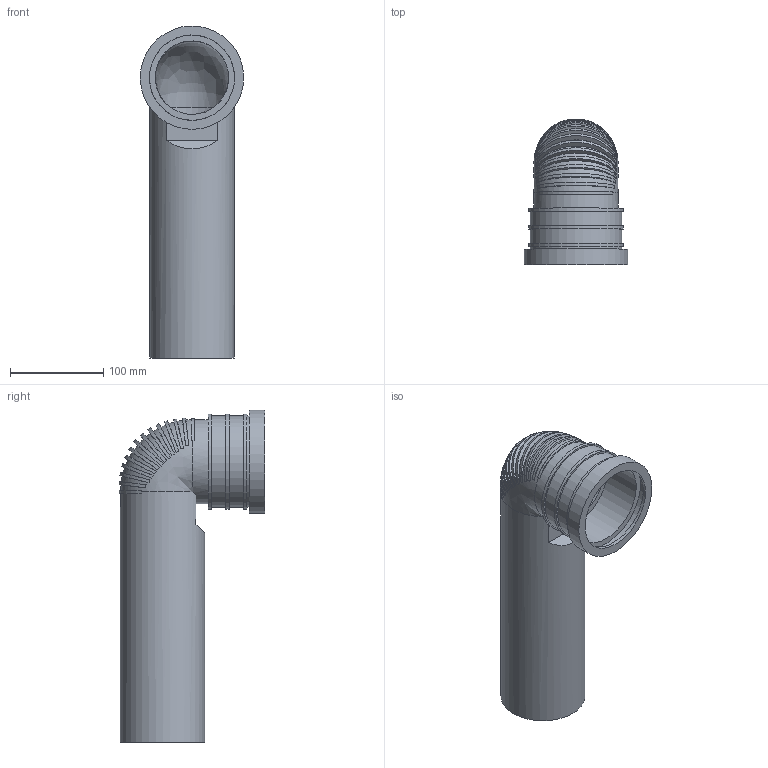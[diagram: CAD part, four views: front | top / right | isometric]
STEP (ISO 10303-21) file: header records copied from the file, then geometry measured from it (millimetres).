
FILE_DESCRIPTION(/* description */ (''),/* implementation_level */ '2;1');
FILE_NAME(/* name */ 'C:\Geberit-Teile\Export 2019\308.883.14.1\stp\308883.stp',/* time_stamp */ '2019-06-06T10:43:24+02:00',/* author */ ('JANAN'),/* organization */ (''),/* preprocessor_version */ 'ST-DEVELOPER v16.13',/* originating_system */ 'Autodesk Inventor 2018',/* authorisation */ '');
FILE_SCHEMA (('AUTOMOTIVE_DESIGN { 1 0 10303 214 3 1 1 }'));
Length unit declared in the file: millimetre
Products named in the file (2): AnBogen PE-S2 90G d90/90 L30/11; 38081345_CPP_000_06___Anschlussbogen PE-S2 90G d90
Assembly tree (1 placements, depth 2):
  AnBogen PE-S2 90G d90/90 L30/11
    38081345_CPP_000_06___Anschlussbogen PE-S2 90G d90
Bounding box: 110.97 x 156.66 x 356.48 mm (x, y, z)
Volume: 619059.8 mm3; surface area: 240304.2 mm2
Topology: 1 solids, 1 shells, 74 faces, 161 edges, 108 vertices
Faces by surface type: cone 29, cylinder 28, plane 15, bspline 2
Full cylindrical faces by diameter (mm): 78.875 x2, 90.375 x2, 91.45 x1, 91.7 x1, 98.2 x3, 102 x3, 104.3 x1, 111 x1
Entity records: 2694 total; most frequent: CARTESIAN_POINT 1150, DIRECTION 300, ORIENTED_EDGE 280, AXIS2_PLACEMENT_3D 145, EDGE_CURVE 140, EDGE_LOOP 112, VERTEX_POINT 104, FACE_OUTER_BOUND 74
